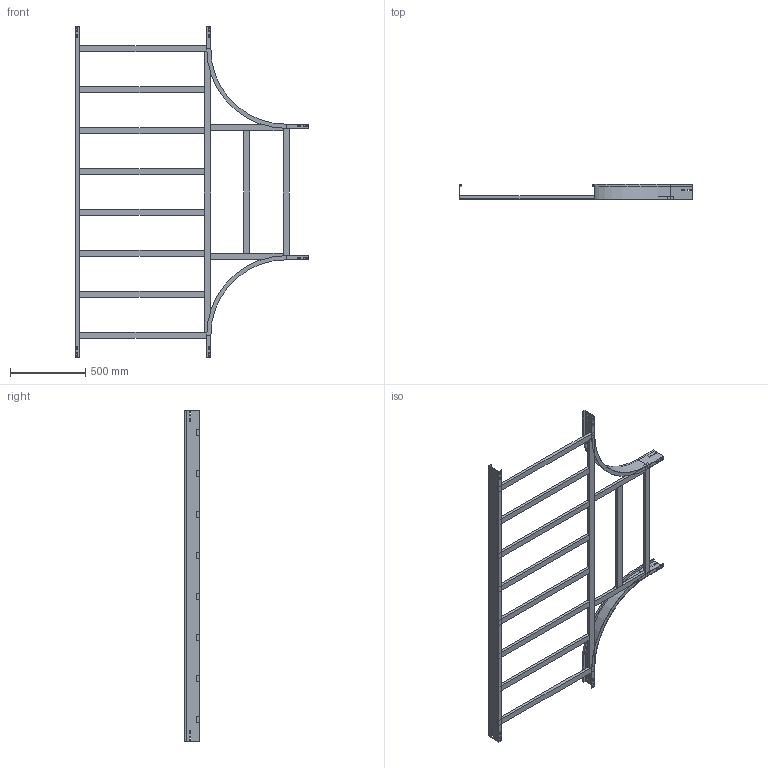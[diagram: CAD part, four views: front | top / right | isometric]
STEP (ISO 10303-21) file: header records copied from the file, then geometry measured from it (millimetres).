
FILE_DESCRIPTION (( 'STEP AP214' ), '1' );
FILE_NAME ('15B5D900.step', '2025-02-21T15:49:21', ( '' ), ( '' ), 'SwSTEP 2.0', 'SolidWorks 2023', '' );
FILE_SCHEMA (( 'AUTOMOTIVE_DESIGN' ));
Length unit declared in the file: millimetre
Products named in the file (8): LONGH.RETT_H100_R500+900; 15B5D900; TRAVERSINO_VERT_R500; LONGH.INTERNO 90°_H100_R500; TRAVERSINO_900; TRAVERSINO_INTERMEDIO_R500+900; TRAVERSINO_COPPIA_900; TRAVERSINO_LONG._R500+900
Assembly tree (16 placements, depth 2):
  15B5D900
    LONGH.INTERNO 90°_H100_R500  x2
    LONGH.RETT_H100_R500+900
    TRAVERSINO_900  x3
    TRAVERSINO_LONG._R500+900
    TRAVERSINO_INTERMEDIO_R500+900  x6
    TRAVERSINO_VERT_R500  x2
    TRAVERSINO_COPPIA_900
Bounding box: 1550 x 100 x 2200 mm (x, y, z)
Volume: 11215227.8 mm3; surface area: 2660374.9 mm2
Topology: 16 solids, 16 shells, 236 faces, 580 edges, 376 vertices
Faces by surface type: plane 228, cylinder 8
Entity records: 4225 total; most frequent: CARTESIAN_POINT 697, ORIENTED_EDGE 664, DIRECTION 638, EDGE_CURVE 332, VECTOR 324, LINE 324, VERTEX_POINT 216, EDGE_LOOP 162
